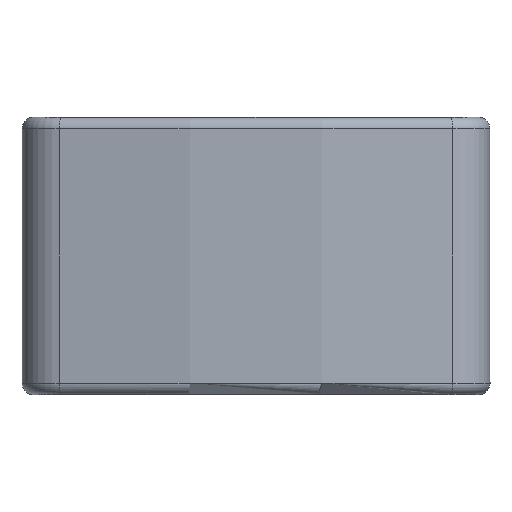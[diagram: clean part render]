
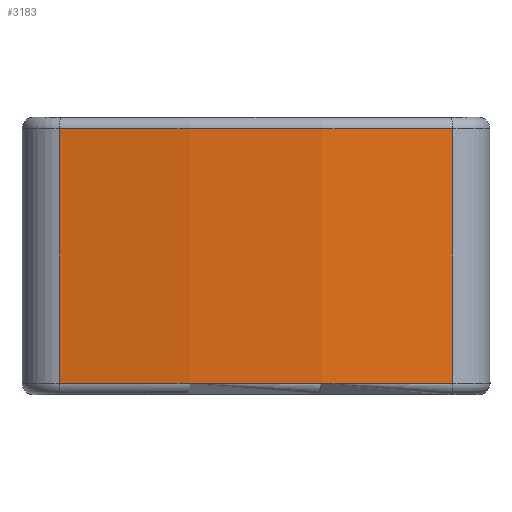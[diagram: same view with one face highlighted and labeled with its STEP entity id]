
A CAD part, front view. The second image highlights one B-rep face of the part: STEP entity #3183.
In plain terms, the highlighted cylindrical face has radius 139.7 mm (diameter 279.4 mm), a partial arc.
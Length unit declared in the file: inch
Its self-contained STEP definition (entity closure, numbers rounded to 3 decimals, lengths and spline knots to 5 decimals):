
#2878=CARTESIAN_POINT('',(113.87493,65.80355,-85.9443));
#2879=VERTEX_POINT('',#2878);
#2904=CARTESIAN_POINT('',(116.00159,65.80355,-85.9443));
#2905=VERTEX_POINT('',#2904);
#2931=CARTESIAN_POINT('',(114.93826,71.19978,-85.9443));
#2932=DIRECTION('',(0.0,0.0,1.0));
#2933=DIRECTION('',(0.0,-1.0,0.0));
#2934=AXIS2_PLACEMENT_3D('',#2931,#2932,#2933);
#2935=CIRCLE('',#2934,5.5);
#2936=EDGE_CURVE('',#2879,#2905,#2935,.T.);
#2956=CARTESIAN_POINT('',(113.87493,65.80355,-87.3183));
#2957=VERTEX_POINT('',#2956);
#2965=CARTESIAN_POINT('',(113.87493,65.80355,-85.9443));
#2966=DIRECTION('',(0.0,0.0,-1.0));
#2967=VECTOR('',#2966,1.374);
#2968=LINE('',#2965,#2967);
#2969=EDGE_CURVE('',#2879,#2957,#2968,.T.);
#3146=CARTESIAN_POINT('',(116.00159,65.80355,-87.3183));
#3147=VERTEX_POINT('',#3146);
#3148=CARTESIAN_POINT('',(116.00159,65.80355,-85.9443));
#3149=DIRECTION('',(0.0,0.0,-1.0));
#3150=VECTOR('',#3149,1.374);
#3151=LINE('',#3148,#3150);
#3152=EDGE_CURVE('',#2905,#3147,#3151,.T.);
#3166=CARTESIAN_POINT('',(114.93826,71.19978,-86.6313));
#3167=DIRECTION('',(0.,0.,1.0));
#3168=DIRECTION('',(-1.0,0.0,0.0));
#3169=AXIS2_PLACEMENT_3D('',#3166,#3167,#3168);
#3170=CYLINDRICAL_SURFACE('',#3169,5.5);
#3171=ORIENTED_EDGE('',*,*,#2969,.T.);
#3172=CARTESIAN_POINT('',(114.93826,71.19978,-87.3183));
#3173=DIRECTION('',(0.0,0.0,-1.0));
#3174=DIRECTION('',(0.0,-1.0,0.0));
#3175=AXIS2_PLACEMENT_3D('',#3172,#3173,#3174);
#3176=CIRCLE('',#3175,5.5);
#3177=EDGE_CURVE('',#3147,#2957,#3176,.T.);
#3178=ORIENTED_EDGE('',*,*,#3177,.F.);
#3179=ORIENTED_EDGE('',*,*,#3152,.F.);
#3180=ORIENTED_EDGE('',*,*,#2936,.F.);
#3181=EDGE_LOOP('',(#3171,#3178,#3179,#3180));
#3182=FACE_OUTER_BOUND('',#3181,.T.);
#3183=ADVANCED_FACE('',(#3182),#3170,.T.);
